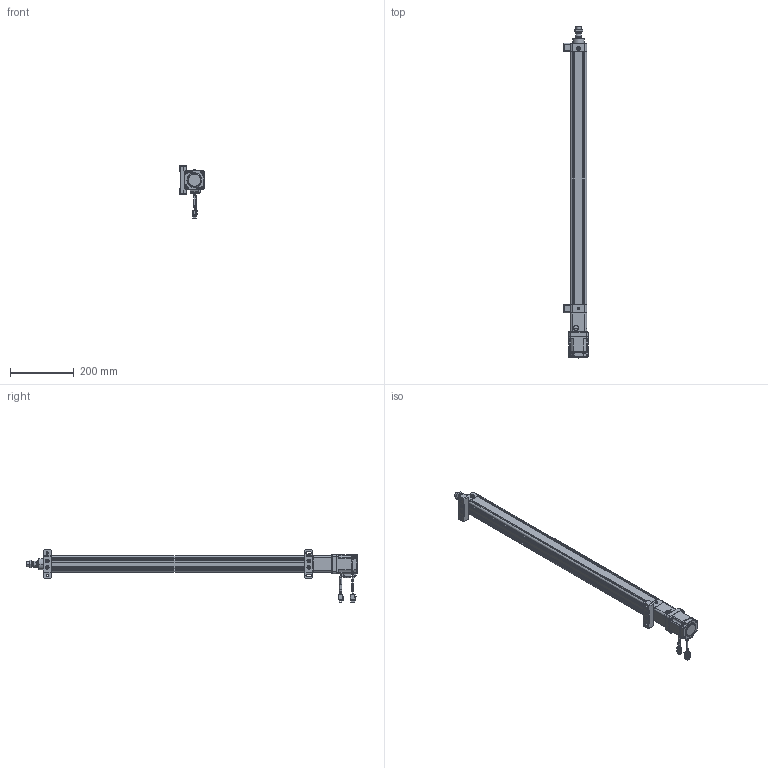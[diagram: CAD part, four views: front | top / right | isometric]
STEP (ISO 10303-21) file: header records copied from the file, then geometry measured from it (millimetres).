
FILE_DESCRIPTION((''),'2;1');
FILE_NAME('HE40-D-100_ASM','2020-05-09T',('ASUS20200'),(''),'CREO PARAMETRIC BY PTC INC, 2014190','CREO PARAMETRIC BY PTC INC, 2014190','');
FILE_SCHEMA(('CONFIG_CONTROL_DESIGN'));
Products named in the file (28): HE40-D-P-001-X1; HE40-D-P-002-X1; HE40-D-P-003-X1; 6200ZZ; HE40-D-009-X1; HE40-D-010-X1; _MHMF022L1A2; _CABLE_MOTOR_BOTTOM_03; _CABLE_MOTOR_TOP_03; _MOTOR_CONNECTOR_2; _CABLE_BRAKE_BOTTOM_03; _CABLE_BRAKE_TOP_03; _MHMF_CONNECTOR_9_PIN_A6; MHMF022L1A2M2_1_ASM; MHMF022L1A2M2_ASM; SLM-01; YZ-M6X1; JDB202820; SKT-13; JX5X5X20; HE40-P-015-X1; HE40-P-016-X1; M6X20; HE40-D-P-005-X1; HE40-D-P-004-X1; HE40-D-P-008-X1; LGLM-M6-22; HE40-D-100_ASM
Assembly tree (33 placements, depth 4):
  HE40-D-100_ASM
    HE40-D-P-001-X1
    HE40-D-P-002-X1
    HE40-D-P-003-X1
    6200ZZ
    HE40-D-009-X1
    HE40-D-010-X1
    MHMF022L1A2M2_ASM
      MHMF022L1A2M2_1_ASM
        _MHMF022L1A2
        _CABLE_MOTOR_BOTTOM_03
        _CABLE_MOTOR_TOP_03
        _MOTOR_CONNECTOR_2
        _CABLE_BRAKE_BOTTOM_03
        _CABLE_BRAKE_TOP_03
        _MHMF_CONNECTOR_9_PIN_A6
    SLM-01
    YZ-M6X1
    JDB202820
    SKT-13
    JX5X5X20
    HE40-P-015-X1
    HE40-P-016-X1
    M6X20  x4
    HE40-D-P-005-X1
    HE40-D-P-004-X1
    HE40-D-P-008-X1
    LGLM-M6-22  x4
Bounding box: 75.5 x 1038.5 x 164.2 mm (x, y, z)
Volume: 1385389.4 mm3; surface area: 547357.6 mm2
Topology: 31 solids, 60 shells, 2586 faces, 6269 edges, 3871 vertices
Faces by surface type: plane 1105, cylinder 749, cone 590, torus 102, sphere 36, bspline 4
Entity records: 72034 total; most frequent: CARTESIAN_POINT 13571, DIRECTION 12790, ORIENTED_EDGE 11526, EDGE_CURVE 5815, AXIS2_PLACEMENT_3D 4737, VERTEX_POINT 3625, VECTOR 3316, LINE 3316
